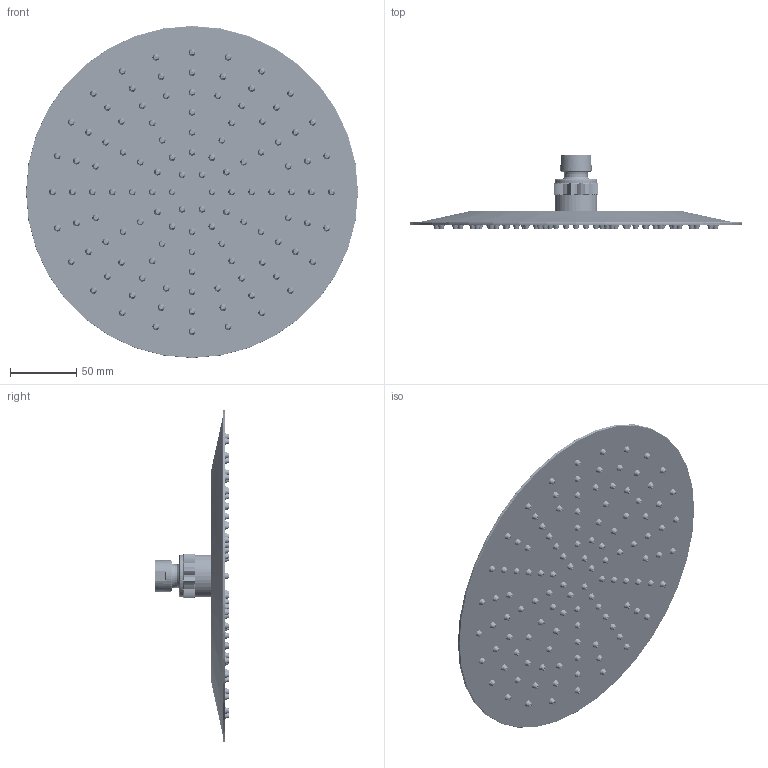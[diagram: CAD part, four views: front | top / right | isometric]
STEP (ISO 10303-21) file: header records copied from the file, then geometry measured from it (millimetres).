
FILE_DESCRIPTION((''),'2;1');
FILE_NAME('76684--00_ASM','2022-06-14T08:23:09',('sosm1'),(''),'CREO PARAMETRIC BY PTC INC, 2018190','CREO PARAMETRIC BY PTC INC, 2018190','');
FILE_SCHEMA(('CONFIG_CONTROL_DESIGN'));
Length unit declared in the file: millimetre
Products named in the file (17): 44934--; 44929--; 44922--; 4492500; 44926--; 44924--; 4492300; 76684--00_SUB02_ASM; 44930--; 4492700; 44935--; 44928--; 44932--; 44933--; 44931--; 76684--00_SUB01_ASM; 76684--00_ASM
Assembly tree (33 placements, depth 4):
  76684--00_ASM
    76684--00_SUB01_ASM
      44934--
      44929--
      76684--00_SUB02_ASM
        44922--
        4492500
        44926--
        44924--
        4492300
      44930--
      4492700
      44935--  x7
      44928--  x7
      44932--  x6
      44933--
      44931--
Bounding box: 250 x 56 x 250 mm (x, y, z)
Volume: 174237 mm3; surface area: 314709.3 mm2
Topology: 31 solids, 31 shells, 3692 faces, 8677 edges, 5367 vertices
Faces by surface type: cylinder 1064, torus 907, cone 795, plane 721, bspline 178, sphere 23, revolution 4
Entity records: 101502 total; most frequent: CARTESIAN_POINT 30396, DIRECTION 16394, ORIENTED_EDGE 13794, AXIS2_PLACEMENT_3D 7264, EDGE_CURVE 6897, CIRCLE 4283, VERTEX_POINT 4241, EDGE_LOOP 3732
